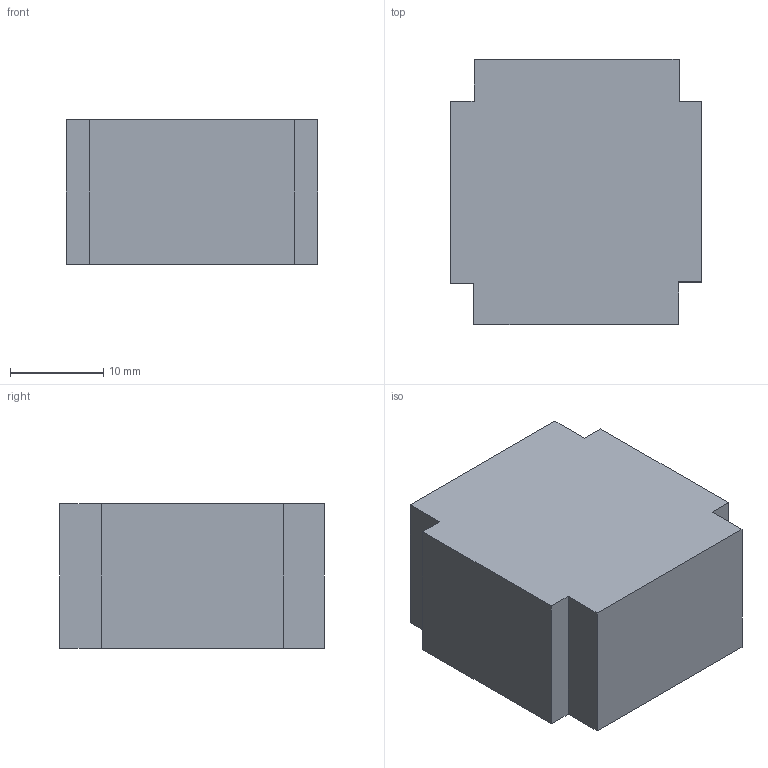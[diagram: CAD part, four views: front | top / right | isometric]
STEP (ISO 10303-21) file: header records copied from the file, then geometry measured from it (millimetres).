
FILE_DESCRIPTION(('FreeCAD Model'),'2;1');
FILE_NAME('Open CASCADE Shape Model','2024-08-21T22:53:46',('Author'),( ''),'Open CASCADE STEP processor 7.6','FreeCAD','Unknown');
FILE_SCHEMA(('AUTOMOTIVE_DESIGN { 1 0 10303 214 1 1 1 1 }'));
Length unit declared in the file: millimetre
Products named in the file (1): Extrude
Bounding box: 27.02 x 28.43 x 15.5 mm (x, y, z)
Volume: 11208.9 mm3; surface area: 3165.3 mm2
Topology: 1 solids, 1 shells, 14 faces, 36 edges, 24 vertices
Faces by surface type: plane 14
Entity records: 909 total; most frequent: CARTESIAN_POINT 147, DIRECTION 138, LINE 108, VECTOR 108, ORIENTED_EDGE 72, PCURVE 72, DEFINITIONAL_REPRESENTATION 72, EDGE_CURVE 36
